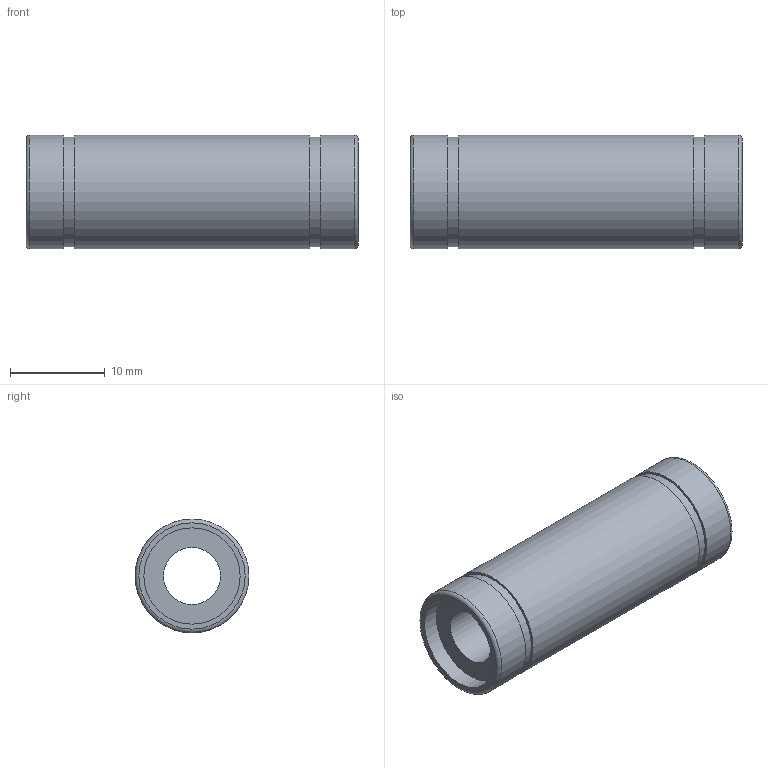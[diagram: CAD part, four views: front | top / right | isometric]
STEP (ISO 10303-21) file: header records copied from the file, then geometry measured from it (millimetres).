
FILE_DESCRIPTION( ( 'Unknown' ), '1' );
FILE_NAME( 'D:/累诀/己绕皋墨飘肺葱胶/11-04-06_档搁累己/01_府聪绢何教/LM L/LM 6L.stp', 'Unknown', ( 'Unknown' ), ( 'Unknown' ), 'PSStep 11.0', 'Unknown', ' ' );
FILE_SCHEMA( ( 'AUTOMOTIVE_DESIGN { 1 0 10303 214 1 1 1 1 }' ) );
Length unit declared in the file: millimetre
Products named in the file (1): 1
Bounding box: 35 x 12 x 12 mm (x, y, z)
Volume: 2761.7 mm3; surface area: 2214.9 mm2
Topology: 1 solids, 1 shells, 18 faces, 31 edges, 21 vertices
Faces by surface type: plane 8, cylinder 8, torus 2
Full cylindrical faces by diameter (mm): 6 x1, 10.15 x2, 11.5 x2, 12 x3
Entity records: 528 total; most frequent: DIRECTION 74, CARTESIAN_POINT 55, AXIS2_PLACEMENT_3D 37, EDGE_LOOP 36, ORIENTED_EDGE 36, FACE_OUTER_BOUND 28, STYLED_ITEM 18, PRESENTATION_STYLE_ASSIGNMENT 18
